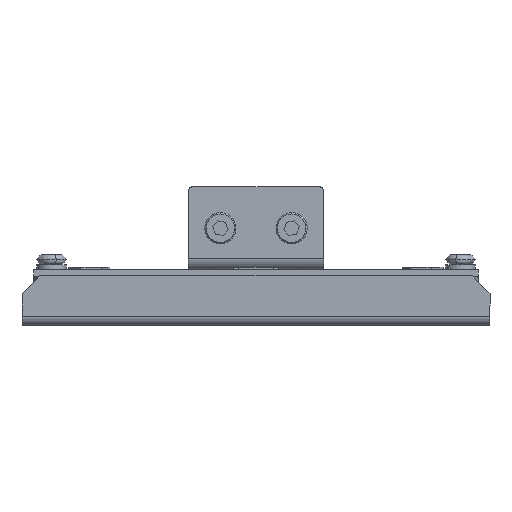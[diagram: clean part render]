
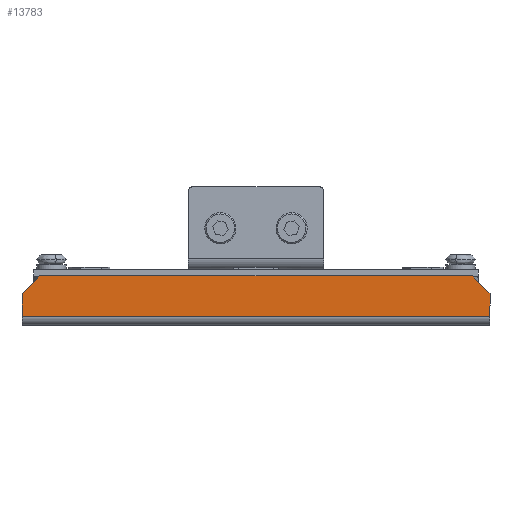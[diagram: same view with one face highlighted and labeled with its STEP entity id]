
A CAD part, front view. The second image highlights one B-rep face of the part: STEP entity #13783.
In plain terms, the highlighted planar face has unit normal (0, -1, 0).
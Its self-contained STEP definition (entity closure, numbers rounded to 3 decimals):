
#373 = CARTESIAN_POINT ( 'NONE',  ( -48.6, -13.5, 9.572 ) ) ;
#941 = CARTESIAN_POINT ( 'NONE',  ( 52.6, -13.5, 5.572 ) ) ;
#1030 = VERTEX_POINT ( 'NONE', #941 ) ;
#1860 = DIRECTION ( 'NONE',  ( 1., 0., 0. ) ) ;
#2369 = LINE ( 'NONE', #5529, #9392 ) ;
#2476 = EDGE_CURVE ( 'NONE', #10665, #10547, #7876, .T. ) ;
#2817 = VECTOR ( 'NONE', #1860, 1000. ) ;
#2886 = VECTOR ( 'NONE', #10610, 1000. ) ;
#3346 = ORIENTED_EDGE ( 'NONE', *, *, #13734, .F. ) ;
#3474 = LINE ( 'NONE', #5372, #7465 ) ;
#3671 = EDGE_CURVE ( 'NONE', #10547, #11505, #2369, .T. ) ;
#4055 = CARTESIAN_POINT ( 'NONE',  ( -48.6, -13.5, 9.572 ) ) ;
#4248 = LINE ( 'NONE', #6978, #10458 ) ;
#4716 = LINE ( 'NONE', #373, #2817 ) ;
#5145 = LINE ( 'NONE', #10297, #2886 ) ;
#5257 = ORIENTED_EDGE ( 'NONE', *, *, #6522, .F. ) ;
#5286 = DIRECTION ( 'NONE',  ( 0., 0., -1. ) ) ;
#5372 = CARTESIAN_POINT ( 'NONE',  ( 52.6, -13.5, 5.572 ) ) ;
#5494 = DIRECTION ( 'NONE',  ( 0.707, 0., 0.707 ) ) ;
#5529 = CARTESIAN_POINT ( 'NONE',  ( -48.6, -13.5, 9.572 ) ) ;
#6096 = VECTOR ( 'NONE', #7231, 1000. ) ;
#6522 = EDGE_CURVE ( 'NONE', #11505, #8682, #4716, .T. ) ;
#6815 = DIRECTION ( 'NONE',  ( -1., 0., 0. ) ) ;
#6978 = CARTESIAN_POINT ( 'NONE',  ( 105.229, -13.5, 0.5 ) ) ;
#7034 = EDGE_LOOP ( 'NONE', ( #5257, #12520, #13919, #13108, #13850, #3346 ) ) ;
#7201 = CARTESIAN_POINT ( 'NONE',  ( -52.6, -13.5, -31.499 ) ) ;
#7231 = DIRECTION ( 'NONE',  ( 0., 0., 1. ) ) ;
#7465 = VECTOR ( 'NONE', #5286, 1000. ) ;
#7876 = LINE ( 'NONE', #7201, #6096 ) ;
#8682 = VERTEX_POINT ( 'NONE', #13720 ) ;
#8726 = CARTESIAN_POINT ( 'NONE',  ( -52.6, -13.5, 0.5 ) ) ;
#9383 = CARTESIAN_POINT ( 'NONE',  ( -52.6, -13.5, 5.572 ) ) ;
#9392 = VECTOR ( 'NONE', #5494, 1000. ) ;
#9489 = AXIS2_PLACEMENT_3D ( 'NONE', #10086, #10083, #10072 ) ;
#9875 = VERTEX_POINT ( 'NONE', #12688 ) ;
#10072 = DIRECTION ( 'NONE',  ( 0., 0., -1. ) ) ;
#10083 = DIRECTION ( 'NONE',  ( 0., -1., 0. ) ) ;
#10086 = CARTESIAN_POINT ( 'NONE',  ( 0., -13.5, 58.172 ) ) ;
#10206 = PLANE ( 'NONE',  #9489 ) ;
#10297 = CARTESIAN_POINT ( 'NONE',  ( 52.6, -13.5, 5.572 ) ) ;
#10458 = VECTOR ( 'NONE', #6815, 1000. ) ;
#10547 = VERTEX_POINT ( 'NONE', #9383 ) ;
#10610 = DIRECTION ( 'NONE',  ( 0.707, 0., -0.707 ) ) ;
#10665 = VERTEX_POINT ( 'NONE', #8726 ) ;
#11050 = EDGE_CURVE ( 'NONE', #9875, #10665, #4248, .T. ) ;
#11505 = VERTEX_POINT ( 'NONE', #4055 ) ;
#12520 = ORIENTED_EDGE ( 'NONE', *, *, #3671, .F. ) ;
#12688 = CARTESIAN_POINT ( 'NONE',  ( 52.6, -13.5, 0.5 ) ) ;
#12689 = EDGE_CURVE ( 'NONE', #1030, #9875, #3474, .T. ) ;
#13108 = ORIENTED_EDGE ( 'NONE', *, *, #11050, .F. ) ;
#13720 = CARTESIAN_POINT ( 'NONE',  ( 48.6, -13.5, 9.572 ) ) ;
#13734 = EDGE_CURVE ( 'NONE', #8682, #1030, #5145, .T. ) ;
#13783 = ADVANCED_FACE ( 'N', ( #14373 ), #10206, .T. ) ;
#13850 = ORIENTED_EDGE ( 'NONE', *, *, #12689, .F. ) ;
#13919 = ORIENTED_EDGE ( 'NONE', *, *, #2476, .F. ) ;
#14373 = FACE_OUTER_BOUND ( 'NONE', #7034, .T. ) ;
